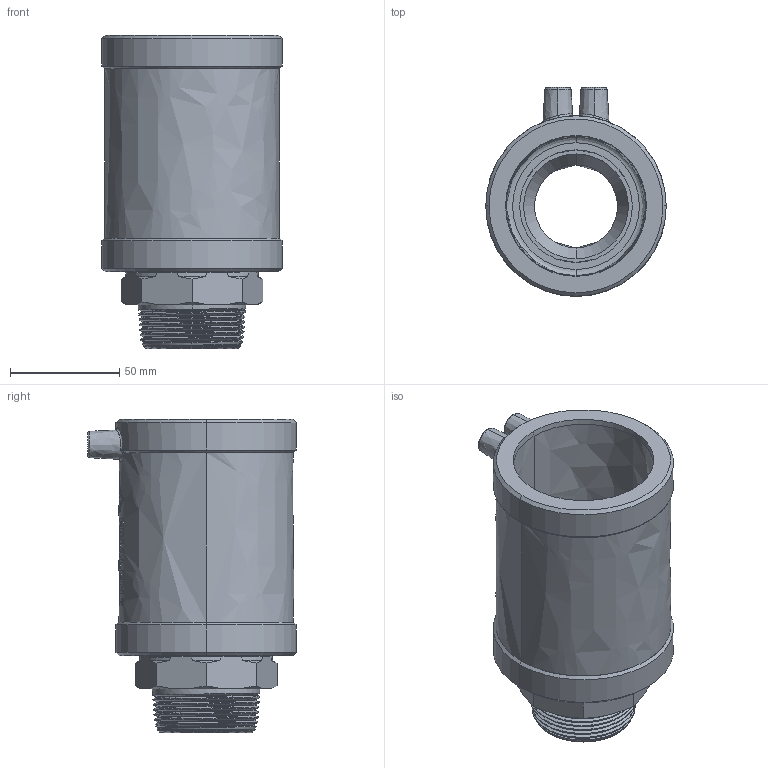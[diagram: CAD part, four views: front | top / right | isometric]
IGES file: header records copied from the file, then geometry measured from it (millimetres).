
Start section:  PTC IGES file: mun_d63_1_1-2_01.igs
Global section: file name: mun_d63_1_1-2_01.igs; native system: Pro/ENGINEER by Parametric Technology Corporation; preprocessor: 2011490; author: mtunjic; organization: Unknown; date: 20130823.150455; units: millimetre
Bounding box: 82.5 x 95.45 x 143.23 mm (x, y, z)
Surface area: 70312.9 mm2 (no closed solid volume)
Topology: 0 solids, 0 shells, 258 faces, 1340 edges, 1340 vertices
Faces by surface type: bspline 258
